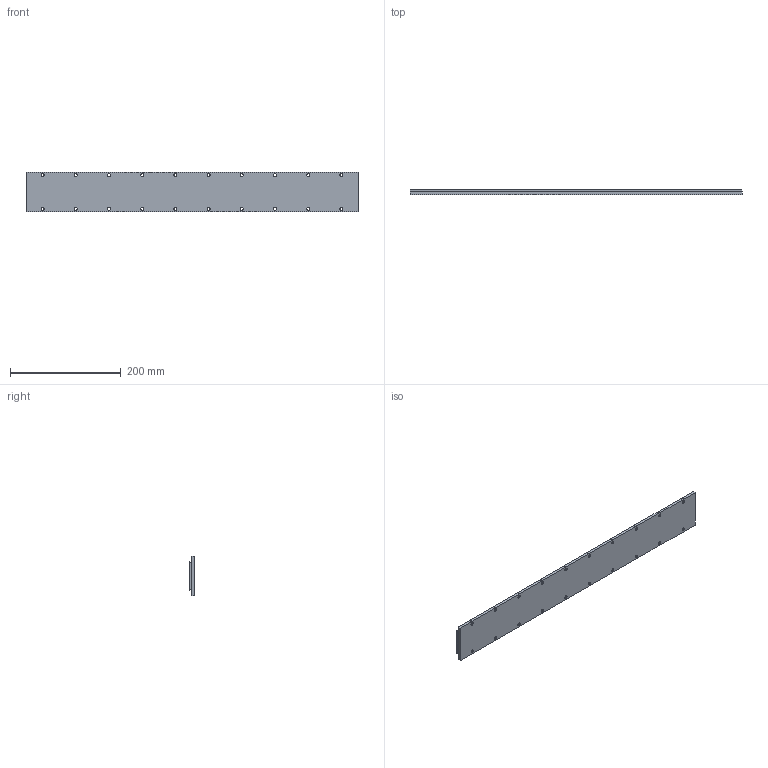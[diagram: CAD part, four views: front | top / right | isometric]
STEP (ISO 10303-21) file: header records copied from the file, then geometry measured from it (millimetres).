
FILE_DESCRIPTION (( 'STEP AP203' ), '1' );
FILE_NAME ('CM600.STEP', '2025-12-28T07:55:55', ( '' ), ( '' ), 'SwSTEP 2.0', 'SolidWorks 2024', '' );
FILE_SCHEMA (( 'CONFIG_CONTROL_DESIGN' ));
Length unit declared in the file: millimetre
Products named in the file (1): CM600
Bounding box: 600 x 9.2 x 72 mm (x, y, z)
Volume: 337569.9 mm3; surface area: 109315.1 mm2
Topology: 1 solids, 1 shells, 153 faces, 368 edges, 240 vertices
Faces by surface type: cylinder 84, plane 57, bspline 12
Entity records: 4883 total; most frequent: CARTESIAN_POINT 1070, DIRECTION 796, ORIENTED_EDGE 736, EDGE_CURVE 368, AXIS2_PLACEMENT_3D 310, VERTEX_POINT 240, EDGE_LOOP 216, LINE 176
